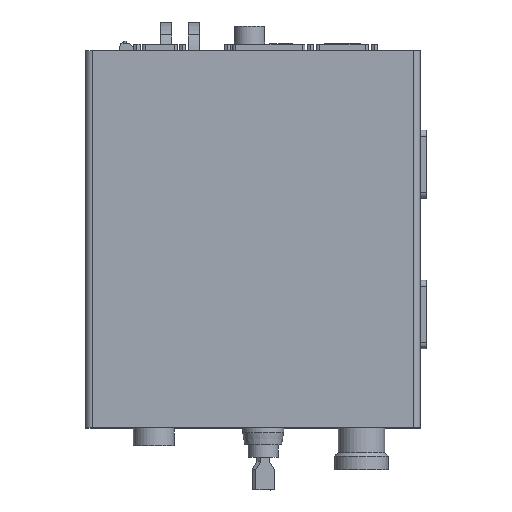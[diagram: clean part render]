
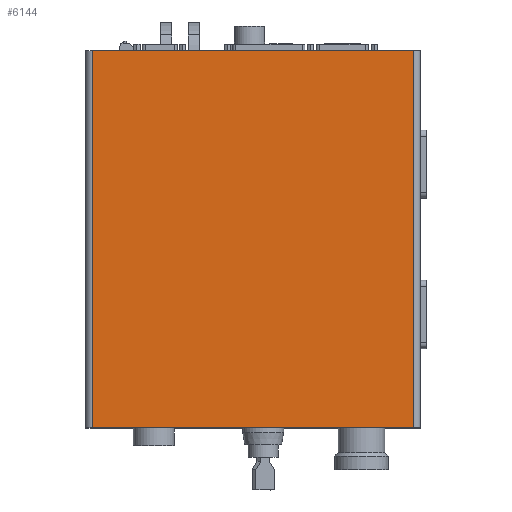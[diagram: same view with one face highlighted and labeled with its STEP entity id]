
A CAD part, top view. The second image highlights one B-rep face of the part: STEP entity #6144.
In plain terms, the highlighted planar face has unit normal (0, 0, 1).
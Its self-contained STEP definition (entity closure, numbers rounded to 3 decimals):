
#339=FACE_OUTER_BOUND('',#678,.T.);
#678=EDGE_LOOP('',(#4107,#4108,#4109,#4110));
#1200=LINE('',#9011,#1916);
#1201=LINE('',#9013,#1917);
#1202=LINE('',#9015,#1918);
#1203=LINE('',#9016,#1919);
#1916=VECTOR('',#7236,1000.);
#1917=VECTOR('',#7237,1000.);
#1918=VECTOR('',#7238,1000.);
#1919=VECTOR('',#7239,1000.);
#2589=VERTEX_POINT('',#9009);
#2590=VERTEX_POINT('',#9010);
#2591=VERTEX_POINT('',#9012);
#2592=VERTEX_POINT('',#9014);
#3204=EDGE_CURVE('',#2589,#2590,#1200,.T.);
#3205=EDGE_CURVE('',#2591,#2590,#1201,.T.);
#3206=EDGE_CURVE('',#2591,#2592,#1202,.T.);
#3207=EDGE_CURVE('',#2592,#2589,#1203,.T.);
#4107=ORIENTED_EDGE('',*,*,#3204,.T.);
#4108=ORIENTED_EDGE('',*,*,#3205,.F.);
#4109=ORIENTED_EDGE('',*,*,#3206,.T.);
#4110=ORIENTED_EDGE('',*,*,#3207,.T.);
#5650=PLANE('',#6497);
#6144=ADVANCED_FACE('',(#339),#5650,.F.);
#6497=AXIS2_PLACEMENT_3D('',#9008,#7234,#7235);
#7234=DIRECTION('center_axis',(0.,0.,
-1.));
#7235=DIRECTION('ref_axis',(0.,1.,0.));
#7236=DIRECTION('',(0.,1.,0.));
#7237=DIRECTION('',(1.,0.,0.));
#7238=DIRECTION('',(0.,-1.,0.));
#7239=DIRECTION('',(1.,0.,0.));
#9008=CARTESIAN_POINT('Origin',(0.,3.,
165.));
#9009=CARTESIAN_POINT('',(240.,0.,165.));
#9010=CARTESIAN_POINT('',(240.,276.,165.));
#9011=CARTESIAN_POINT('',(240.,276.,165.));
#9012=CARTESIAN_POINT('',(5.,276.,165.));
#9013=CARTESIAN_POINT('',(0.,276.,165.));
#9014=CARTESIAN_POINT('',(5.,0.,165.));
#9015=CARTESIAN_POINT('',(5.,3.,165.));
#9016=CARTESIAN_POINT('',(0.,0.,165.));
